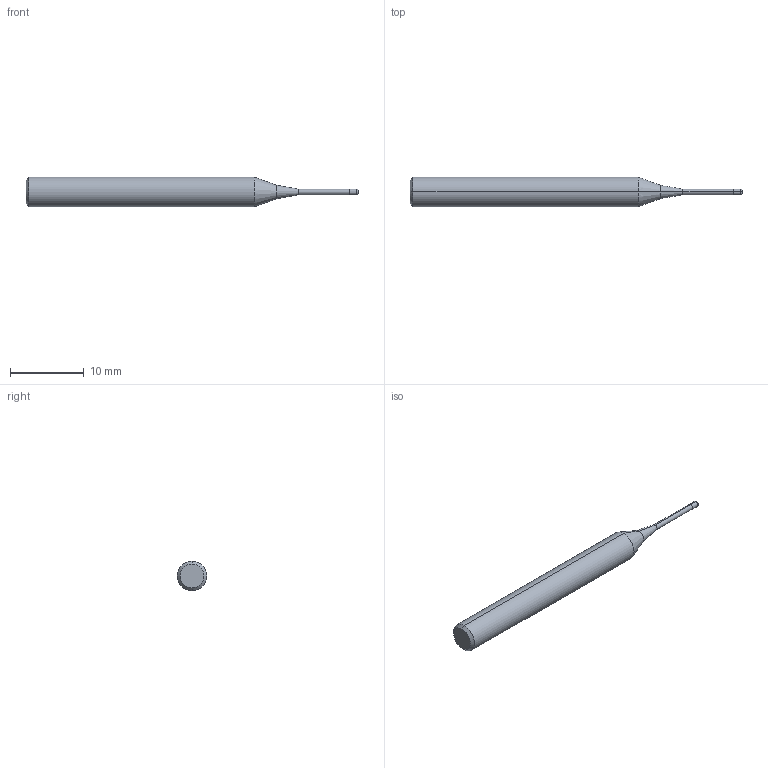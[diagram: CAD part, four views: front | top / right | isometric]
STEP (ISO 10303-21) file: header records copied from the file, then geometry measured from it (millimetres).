
FILE_DESCRIPTION (( 'STEP AP214' ), '1' );
FILE_NAME ('SEME610080208E.STEP', '2018-04-09T09:03:10', ( '' ), ( '' ), 'SwSTEP 2.0', 'SolidWorks 2014', '' );
FILE_SCHEMA (( 'AUTOMOTIVE_DESIGN' ));
Length unit declared in the file: millimetre
Products named in the file (1): SEME610080208E
Bounding box: 45 x 4 x 4 mm (x, y, z)
Volume: 416.7 mm3; surface area: 460.4 mm2
Topology: 2 solids, 2 shells, 18 faces, 32 edges, 18 vertices
Faces by surface type: cylinder 6, cone 6, plane 4, torus 2
Entity records: 479 total; most frequent: DIRECTION 90, CARTESIAN_POINT 69, ORIENTED_EDGE 64, AXIS2_PLACEMENT_3D 39, EDGE_CURVE 32, CIRCLE 20, ADVANCED_FACE 18, VERTEX_POINT 18
